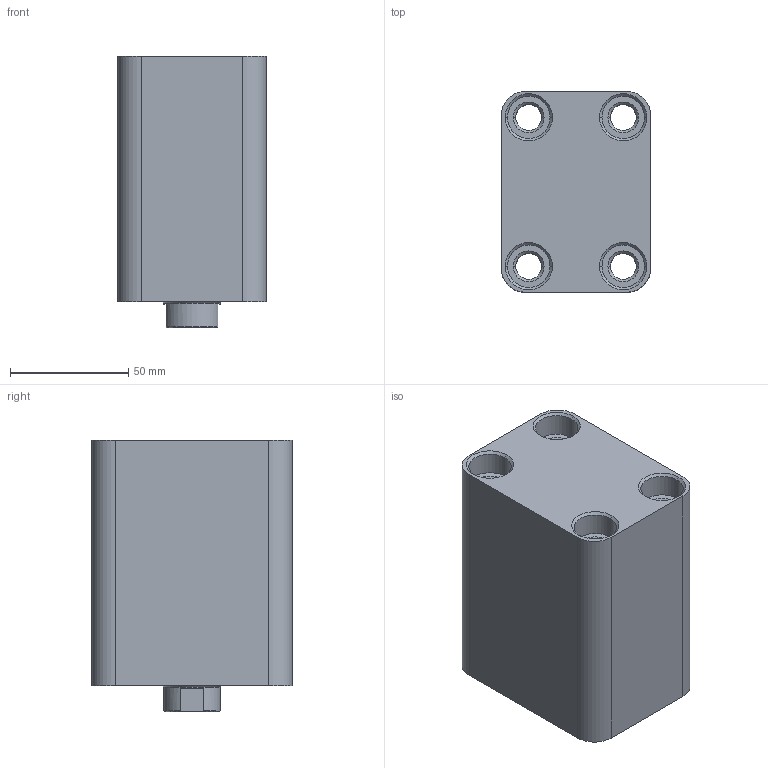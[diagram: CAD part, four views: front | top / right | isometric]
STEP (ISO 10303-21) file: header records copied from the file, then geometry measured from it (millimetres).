
FILE_DESCRIPTION (( 'STEP AP214' ), '1' );
FILE_NAME ('KBZ_02_40_25_50.STEP', '2022-10-02T11:11:55', ( '' ), ( '' ), 'SwSTEP 2.0', 'SolidWorks 2021', '' );
FILE_SCHEMA (( 'AUTOMOTIVE_DESIGN' ));
Length unit declared in the file: millimetre
Products named in the file (9): KBZ_03_40_25_烰_KAPAK; KBZ_02_40_25_50; KBZ_02_40_GOVDE_WEB; KBZ_02_25_K_MIL_WEB; KBZ_03_40_25_ON_KAPAK; KO-38X3; K05-25X31X4; K22-25X35X6; 25_28_PAP_25_05
Assembly tree (8 placements, depth 3):
  KBZ_02_40_25_50
    KBZ_02_40_GOVDE_WEB
    KBZ_03_40_25_烰_KAPAK
      KBZ_03_40_25_ON_KAPAK
      K05-25X31X4
      KO-38X3
      25_28_PAP_25_05
      K22-25X35X6
    KBZ_02_25_K_MIL_WEB
Bounding box: 63 x 85 x 115 mm (x, y, z)
Volume: 445039.8 mm3; surface area: 94308.2 mm2
Topology: 7 solids, 7 shells, 571 faces, 1383 edges, 879 vertices
Faces by surface type: bspline 203, plane 200, cone 84, cylinder 76, torus 8
Entity records: 26371 total; most frequent: CARTESIAN_POINT 13845, ORIENTED_EDGE 2762, DIRECTION 1976, EDGE_CURVE 1381, VERTEX_POINT 879, VECTOR 710, LINE 710, EDGE_LOOP 646
